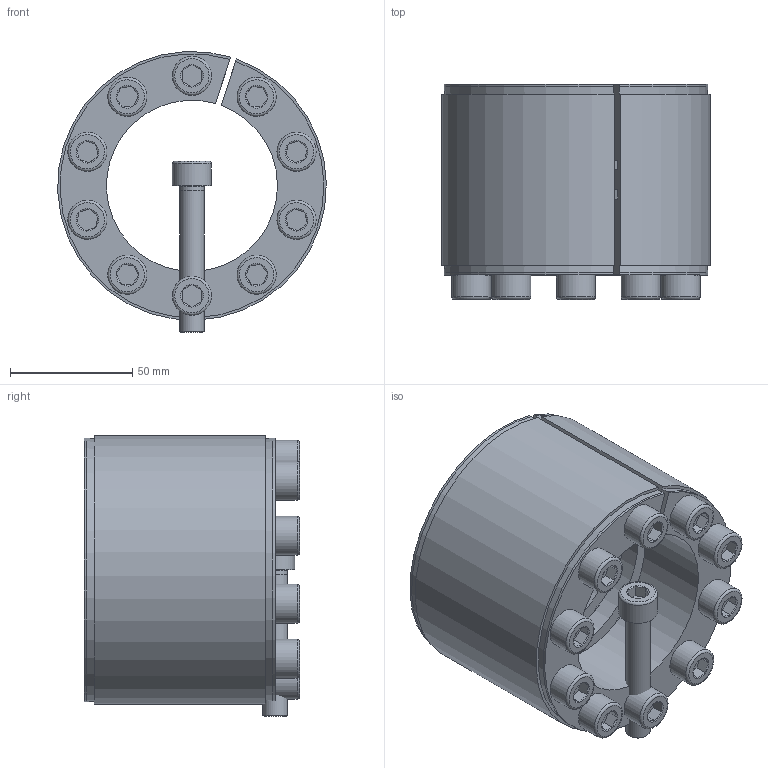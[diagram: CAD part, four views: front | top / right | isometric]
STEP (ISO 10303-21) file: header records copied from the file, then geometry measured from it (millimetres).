
FILE_DESCRIPTION( ( 'Unknown' ), '1' );
FILE_NAME( 'C:/Dokumente und Einstellungen/Sven/Desktop/homepage/cad - homepage/KBS11/KBS 11 - 70 x 110.stp', 'Unknown', ( 'Unknown' ), ( 'Unknown' ), 'XStep 1.0', 'Unknown', ' ' );
FILE_SCHEMA( ( 'automotive_design' ) );
Length unit declared in the file: millimetre
Products named in the file (3): Assem1; KBS 11 - 70 x 110; ISO EN DIN 4762 M10x60
Bounding box: 109.94 x 88 x 114.92 mm (x, y, z)
Volume: 759735.3 mm3; surface area: 218833.2 mm2
Topology: 13 solids, 13 shells, 375 faces, 801 edges, 496 vertices
Faces by surface type: plane 152, cylinder 116, cone 85, torus 22
Full cylindrical faces by diameter (mm): 9 x11, 10 x82, 16 x11
Entity records: 2738 total; most frequent: CARTESIAN_POINT 425, DIRECTION 404, ORIENTED_EDGE 298, AXIS2_PLACEMENT_3D 182, EDGE_LOOP 176, EDGE_CURVE 149, VERTEX_POINT 119, FACE_OUTER_BOUND 111
